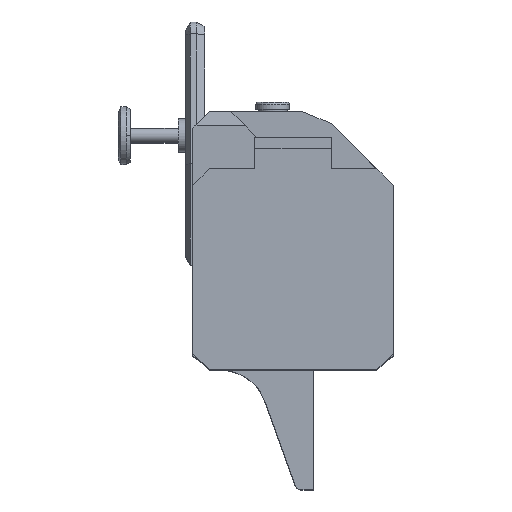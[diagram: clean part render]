
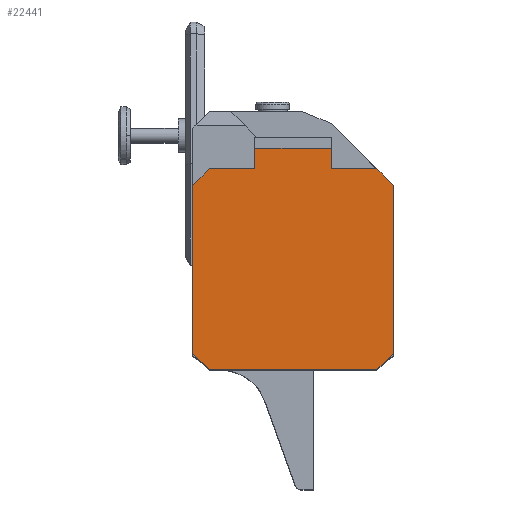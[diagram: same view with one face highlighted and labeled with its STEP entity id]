
A CAD part, top view. The second image highlights one B-rep face of the part: STEP entity #22441.
In plain terms, the highlighted planar face has unit normal (0, 0, 1).
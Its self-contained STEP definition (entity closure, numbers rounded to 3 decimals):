
#16 = CARTESIAN_POINT ( 'NONE',  ( -17.373, 48.529, 60.5 ) ) ;
#368 = EDGE_CURVE ( 'NONE', #19279, #23424, #22437, .T. ) ;
#482 = ORIENTED_EDGE ( 'NONE', *, *, #26835, .T. ) ;
#1644 = CARTESIAN_POINT ( 'NONE',  ( -26.873, 48.529, 60.5 ) ) ;
#1685 = CARTESIAN_POINT ( 'NONE',  ( -1.373, 48.529, 60.5 ) ) ;
#1730 = VERTEX_POINT ( 'NONE', #1644 ) ;
#1743 = DIRECTION ( 'NONE',  ( -1., 0., 0. ) ) ;
#2098 = DIRECTION ( 'NONE',  ( -0.707, 0.707, 0. ) ) ;
#2175 = VECTOR ( 'NONE', #2098, 1000. ) ;
#2358 = LINE ( 'NONE', #15750, #19543 ) ;
#2377 = DIRECTION ( 'NONE',  ( -0.707, -0.707, 0. ) ) ;
#2736 = LINE ( 'NONE', #24343, #15521 ) ;
#2778 = VERTEX_POINT ( 'NONE', #4611 ) ;
#3115 = LINE ( 'NONE', #28027, #14810 ) ;
#3252 = LINE ( 'NONE', #7290, #14951 ) ;
#3502 = LINE ( 'NONE', #7379, #21806 ) ;
#4446 = DIRECTION ( 'NONE',  ( 1., 0., 0. ) ) ;
#4611 = CARTESIAN_POINT ( 'NONE',  ( -17.373, 52.779, 60.5 ) ) ;
#5114 = ORIENTED_EDGE ( 'NONE', *, *, #9051, .T. ) ;
#5121 = VECTOR ( 'NONE', #4446, 1000. ) ;
#5513 = VERTEX_POINT ( 'NONE', #25883 ) ;
#5634 = ORIENTED_EDGE ( 'NONE', *, *, #8242, .T. ) ;
#5888 = CARTESIAN_POINT ( 'NONE',  ( 8.127, 48.529, 60.5 ) ) ;
#6213 = ORIENTED_EDGE ( 'NONE', *, *, #10427, .T. ) ;
#6564 = DIRECTION ( 'NONE',  ( -1., 0., 0. ) ) ;
#6595 = CARTESIAN_POINT ( 'NONE',  ( 11.627, 10.029, 60.5 ) ) ;
#7290 = CARTESIAN_POINT ( 'NONE',  ( -1.373, 48.529, 60.5 ) ) ;
#7379 = CARTESIAN_POINT ( 'NONE',  ( -17.373, 48.529, 60.5 ) ) ;
#7502 = ORIENTED_EDGE ( 'NONE', *, *, #15524, .T. ) ;
#7638 = CARTESIAN_POINT ( 'NONE',  ( -26.873, 6.529, 60.5 ) ) ;
#7687 = CARTESIAN_POINT ( 'NONE',  ( 11.627, 45.029, 60.5 ) ) ;
#8183 = VECTOR ( 'NONE', #12239, 1000. ) ;
#8204 = VERTEX_POINT ( 'NONE', #1685 ) ;
#8242 = EDGE_CURVE ( 'NONE', #23424, #20957, #16877, .T. ) ;
#9051 = EDGE_CURVE ( 'NONE', #29726, #1730, #12880, .T. ) ;
#9450 = CARTESIAN_POINT ( 'NONE',  ( -1.373, 52.779, 60.5 ) ) ;
#9487 = CARTESIAN_POINT ( 'NONE',  ( 11.627, 45.029, 60.5 ) ) ;
#9583 = CARTESIAN_POINT ( 'NONE',  ( -30.373, 10.029, 60.5 ) ) ;
#9695 = ORIENTED_EDGE ( 'NONE', *, *, #368, .T. ) ;
#9938 = DIRECTION ( 'NONE',  ( 0., 1., 0. ) ) ;
#10427 = EDGE_CURVE ( 'NONE', #24204, #23271, #26342, .T. ) ;
#12239 = DIRECTION ( 'NONE',  ( 0., 1., 0. ) ) ;
#12880 = LINE ( 'NONE', #20784, #22790 ) ;
#13338 = CARTESIAN_POINT ( 'NONE',  ( 11.627, 10.029, 60.5 ) ) ;
#13516 = VECTOR ( 'NONE', #23760, 1000. ) ;
#13930 = CARTESIAN_POINT ( 'NONE',  ( 8.127, 6.529, 60.5 ) ) ;
#14747 = DIRECTION ( 'NONE',  ( 0.707, -0.707, 0. ) ) ;
#14810 = VECTOR ( 'NONE', #2377, 1000. ) ;
#14951 = VECTOR ( 'NONE', #9938, 1000. ) ;
#15149 = EDGE_CURVE ( 'NONE', #1730, #5513, #3115, .T. ) ;
#15521 = VECTOR ( 'NONE', #20278, 1000. ) ;
#15524 = EDGE_CURVE ( 'NONE', #20957, #8204, #2736, .T. ) ;
#15710 = DIRECTION ( 'NONE',  ( -1., 0., 0. ) ) ;
#15750 = CARTESIAN_POINT ( 'NONE',  ( -17.373, 52.779, 60.5 ) ) ;
#16187 = ORIENTED_EDGE ( 'NONE', *, *, #21251, .T. ) ;
#16660 = ORIENTED_EDGE ( 'NONE', *, *, #18500, .T. ) ;
#16877 = LINE ( 'NONE', #9487, #2175 ) ;
#17044 = CARTESIAN_POINT ( 'NONE',  ( 11.627, 10.029, 60.5 ) ) ;
#17163 = ORIENTED_EDGE ( 'NONE', *, *, #23239, .T. ) ;
#17960 = PLANE ( 'NONE',  #20572 ) ;
#18321 = DIRECTION ( 'NONE',  ( 0.707, 0.707, 0. ) ) ;
#18367 = ORIENTED_EDGE ( 'NONE', *, *, #26424, .T. ) ;
#18497 = FACE_OUTER_BOUND ( 'NONE', #29446, .T. ) ;
#18500 = EDGE_CURVE ( 'NONE', #5513, #24204, #28478, .T. ) ;
#19279 = VERTEX_POINT ( 'NONE', #13338 ) ;
#19543 = VECTOR ( 'NONE', #1743, 1000. ) ;
#20174 = VECTOR ( 'NONE', #14747, 1000. ) ;
#20278 = DIRECTION ( 'NONE',  ( -1., 0., 0. ) ) ;
#20572 = AXIS2_PLACEMENT_3D ( 'NONE', #22588, #29797, #15710 ) ;
#20592 = CARTESIAN_POINT ( 'NONE',  ( -26.873, 6.529, 60.5 ) ) ;
#20784 = CARTESIAN_POINT ( 'NONE',  ( 8.127, 48.529, 60.5 ) ) ;
#20957 = VERTEX_POINT ( 'NONE', #5888 ) ;
#21251 = EDGE_CURVE ( 'NONE', #29628, #19279, #28396, .T. ) ;
#21806 = VECTOR ( 'NONE', #30247, 1000. ) ;
#22145 = CARTESIAN_POINT ( 'NONE',  ( -30.373, 10.029, 60.5 ) ) ;
#22206 = EDGE_CURVE ( 'NONE', #2778, #29726, #3502, .T. ) ;
#22437 = LINE ( 'NONE', #17044, #8183 ) ;
#22441 = ADVANCED_FACE ( 'NONE', ( #18497 ), #17960, .F. ) ;
#22588 = CARTESIAN_POINT ( 'NONE',  ( 0., 0., 60.5 ) ) ;
#22790 = VECTOR ( 'NONE', #6564, 1000. ) ;
#23239 = EDGE_CURVE ( 'NONE', #26664, #2778, #2358, .T. ) ;
#23271 = VERTEX_POINT ( 'NONE', #20592 ) ;
#23424 = VERTEX_POINT ( 'NONE', #7687 ) ;
#23760 = DIRECTION ( 'NONE',  ( 0., -1., 0. ) ) ;
#24204 = VERTEX_POINT ( 'NONE', #22145 ) ;
#24343 = CARTESIAN_POINT ( 'NONE',  ( 8.127, 48.529, 60.5 ) ) ;
#25296 = CARTESIAN_POINT ( 'NONE',  ( 8.127, 6.529, 60.5 ) ) ;
#25883 = CARTESIAN_POINT ( 'NONE',  ( -30.373, 45.029, 60.5 ) ) ;
#26279 = ORIENTED_EDGE ( 'NONE', *, *, #22206, .T. ) ;
#26342 = LINE ( 'NONE', #7638, #20174 ) ;
#26424 = EDGE_CURVE ( 'NONE', #23271, #29628, #27416, .T. ) ;
#26664 = VERTEX_POINT ( 'NONE', #9450 ) ;
#26835 = EDGE_CURVE ( 'NONE', #8204, #26664, #3252, .T. ) ;
#27416 = LINE ( 'NONE', #13930, #5121 ) ;
#28027 = CARTESIAN_POINT ( 'NONE',  ( -26.873, 48.529, 60.5 ) ) ;
#28050 = VECTOR ( 'NONE', #18321, 1000. ) ;
#28396 = LINE ( 'NONE', #6595, #28050 ) ;
#28478 = LINE ( 'NONE', #9583, #13516 ) ;
#29446 = EDGE_LOOP ( 'NONE', ( #7502, #482, #17163, #26279, #5114, #29745, #16660, #6213, #18367, #16187, #9695, #5634 ) ) ;
#29628 = VERTEX_POINT ( 'NONE', #25296 ) ;
#29726 = VERTEX_POINT ( 'NONE', #16 ) ;
#29745 = ORIENTED_EDGE ( 'NONE', *, *, #15149, .T. ) ;
#29797 = DIRECTION ( 'NONE',  ( 0., 0., -1. ) ) ;
#30247 = DIRECTION ( 'NONE',  ( 0., -1., 0. ) ) ;
